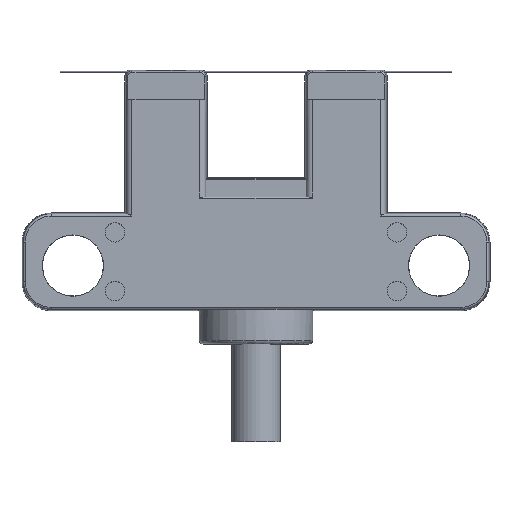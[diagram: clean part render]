
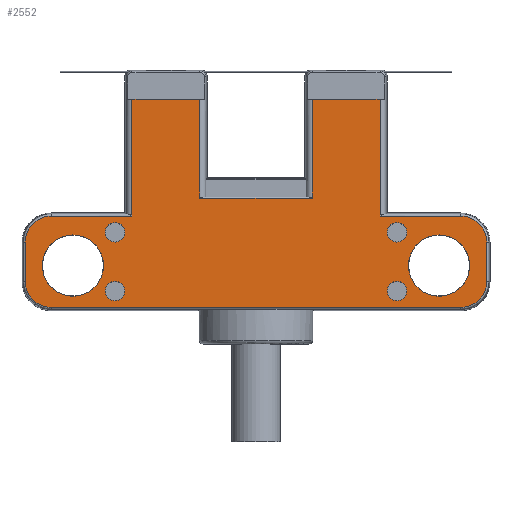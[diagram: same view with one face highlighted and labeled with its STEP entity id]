
A CAD part, top view. The second image highlights one B-rep face of the part: STEP entity #2552.
In plain terms, the highlighted planar face has unit normal (0, 0, 1).
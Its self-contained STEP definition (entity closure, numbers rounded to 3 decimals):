
#14=CARTESIAN_POINT('',(10.45,3.2,3.));
#15=DIRECTION('',(0.,0.,-1.));
#16=DIRECTION('',(0.,1.,0.));
#17=AXIS2_PLACEMENT_3D('',#14,#15,#16);
#19=CARTESIAN_POINT('',(10.45,1.2,3.));
#20=DIRECTION('',(0.,0.,-1.));
#21=DIRECTION('',(1.,0.,0.));
#22=AXIS2_PLACEMENT_3D('',#19,#20,#21);
#24=CARTESIAN_POINT('',(-10.45,1.2,3.));
#25=DIRECTION('',(0.,0.,-1.));
#26=DIRECTION('',(0.,-1.,0.));
#27=AXIS2_PLACEMENT_3D('',#24,#25,#26);
#29=CARTESIAN_POINT('',(-10.45,3.2,3.));
#30=DIRECTION('',(0.,0.,-1.));
#31=DIRECTION('',(-1.,0.,0.));
#32=AXIS2_PLACEMENT_3D('',#29,#30,#31);
#34=CARTESIAN_POINT('',(-9.35,2.,3.));
#35=DIRECTION('',(0.,0.,1.));
#36=DIRECTION('',(1.,0.,0.));
#37=AXIS2_PLACEMENT_3D('',#34,#35,#36);
#39=CARTESIAN_POINT('',(-9.35,2.,3.));
#40=DIRECTION('',(0.,0.,1.));
#41=DIRECTION('',(-1.,0.,0.));
#42=AXIS2_PLACEMENT_3D('',#39,#40,#41);
#44=CARTESIAN_POINT('',(-7.2,0.7,3.));
#45=DIRECTION('',(0.,0.,1.));
#46=DIRECTION('',(0.,1.,0.));
#47=AXIS2_PLACEMENT_3D('',#44,#45,#46);
#49=CARTESIAN_POINT('',(-7.2,0.7,3.));
#50=DIRECTION('',(0.,0.,1.));
#51=DIRECTION('',(0.,-1.,0.));
#52=AXIS2_PLACEMENT_3D('',#49,#50,#51);
#54=CARTESIAN_POINT('',(-7.2,3.7,3.));
#55=DIRECTION('',(0.,0.,1.));
#56=DIRECTION('',(0.,1.,0.));
#57=AXIS2_PLACEMENT_3D('',#54,#55,#56);
#59=CARTESIAN_POINT('',(-7.2,3.7,3.));
#60=DIRECTION('',(0.,0.,1.));
#61=DIRECTION('',(0.,-1.,0.));
#62=AXIS2_PLACEMENT_3D('',#59,#60,#61);
#64=CARTESIAN_POINT('',(7.2,0.7,3.));
#65=DIRECTION('',(0.,0.,1.));
#66=DIRECTION('',(0.,1.,0.));
#67=AXIS2_PLACEMENT_3D('',#64,#65,#66);
#69=CARTESIAN_POINT('',(7.2,0.7,3.));
#70=DIRECTION('',(0.,0.,1.));
#71=DIRECTION('',(0.,-1.,0.));
#72=AXIS2_PLACEMENT_3D('',#69,#70,#71);
#74=CARTESIAN_POINT('',(7.2,3.7,3.));
#75=DIRECTION('',(0.,0.,1.));
#76=DIRECTION('',(0.,1.,0.));
#77=AXIS2_PLACEMENT_3D('',#74,#75,#76);
#79=CARTESIAN_POINT('',(7.2,3.7,3.));
#80=DIRECTION('',(0.,0.,1.));
#81=DIRECTION('',(0.,-1.,0.));
#82=AXIS2_PLACEMENT_3D('',#79,#80,#81);
#84=CARTESIAN_POINT('',(9.35,2.,3.));
#85=DIRECTION('',(0.,0.,1.));
#86=DIRECTION('',(1.,0.,0.));
#87=AXIS2_PLACEMENT_3D('',#84,#85,#86);
#89=CARTESIAN_POINT('',(9.35,2.,3.));
#90=DIRECTION('',(0.,0.,1.));
#91=DIRECTION('',(-1.,0.,0.));
#92=AXIS2_PLACEMENT_3D('',#89,#90,#91);
#94=DIRECTION('',(-1.,0.,0.));
#95=VECTOR('',#94,4.115);
#96=CARTESIAN_POINT('',(-6.335,4.533,3.));
#97=LINE('',#96,#95);
#133=DIRECTION('',(0.,-1.,0.));
#134=VECTOR('',#133,2.);
#135=CARTESIAN_POINT('',(-11.783,3.2,3.));
#136=LINE('',#135,#134);
#1067=DIRECTION('',(1.,0.,0.));
#1068=VECTOR('',#1067,20.9);
#1069=CARTESIAN_POINT('',(-10.45,-0.133,
3.));
#1070=LINE('',#1069,#1068);
#1102=DIRECTION('',(0.,1.,0.));
#1103=VECTOR('',#1102,2.);
#1104=CARTESIAN_POINT('',(11.783,1.2,3.));
#1105=LINE('',#1104,#1103);
#1142=DIRECTION('',(-1.,0.,0.));
#1143=VECTOR('',#1142,4.115);
#1144=CARTESIAN_POINT('',(10.45,4.533,3.));
#1145=LINE('',#1144,#1143);
#1154=DIRECTION('',(0.,1.,0.));
#1155=VECTOR('',#1154,5.967);
#1156=CARTESIAN_POINT('',(6.335,4.533,3.));
#1157=LINE('',#1156,#1155);
#1175=DIRECTION('',(-1.,0.,0.));
#1176=VECTOR('',#1175,3.471);
#1177=CARTESIAN_POINT('',(6.335,10.5,3.));
#1178=LINE('',#1177,#1176);
#1184=DIRECTION('',(0.,-1.,0.));
#1185=VECTOR('',#1184,5.05);
#1186=CARTESIAN_POINT('',(2.865,10.5,3.));
#1187=LINE('',#1186,#1185);
#1213=DIRECTION('',(-1.,0.,0.));
#1214=VECTOR('',#1213,5.729);
#1215=CARTESIAN_POINT('',(2.865,5.45,3.));
#1216=LINE('',#1215,#1214);
#1236=DIRECTION('',(0.,1.,0.));
#1237=VECTOR('',#1236,5.05);
#1238=CARTESIAN_POINT('',(-2.865,5.45,3.));
#1239=LINE('',#1238,#1237);
#1249=DIRECTION('',(-1.,0.,0.));
#1250=VECTOR('',#1249,3.471);
#1251=CARTESIAN_POINT('',(-2.865,10.5,3.));
#1252=LINE('',#1251,#1250);
#1258=DIRECTION('',(0.,-1.,0.));
#1259=VECTOR('',#1258,5.967);
#1260=CARTESIAN_POINT('',(-6.335,10.5,3.));
#1261=LINE('',#1260,#1259);
#1942=CARTESIAN_POINT('',(-6.335,4.533,3.));
#1943=CARTESIAN_POINT('',(-10.45,4.533,3.));
#1944=VERTEX_POINT('',#1942);
#1945=VERTEX_POINT('',#1943);
#1946=CARTESIAN_POINT('',(-6.335,10.5,3.));
#1947=VERTEX_POINT('',#1946);
#1948=CARTESIAN_POINT('',(-2.865,10.5,3.));
#1949=VERTEX_POINT('',#1948);
#1950=CARTESIAN_POINT('',(-2.865,5.45,3.));
#1951=VERTEX_POINT('',#1950);
#1952=CARTESIAN_POINT('',(2.865,5.45,3.));
#1953=VERTEX_POINT('',#1952);
#1954=CARTESIAN_POINT('',(2.865,10.5,3.));
#1955=VERTEX_POINT('',#1954);
#1956=CARTESIAN_POINT('',(6.335,10.5,3.));
#1957=VERTEX_POINT('',#1956);
#1958=CARTESIAN_POINT('',(6.335,4.533,3.));
#1959=VERTEX_POINT('',#1958);
#1960=CARTESIAN_POINT('',(10.45,4.533,3.));
#1961=VERTEX_POINT('',#1960);
#1962=CARTESIAN_POINT('',(11.783,3.2,3.));
#1963=VERTEX_POINT('',#1962);
#1964=CARTESIAN_POINT('',(11.783,1.2,3.));
#1965=VERTEX_POINT('',#1964);
#1966=CARTESIAN_POINT('',(10.45,-0.133,3.));
#1967=VERTEX_POINT('',#1966);
#1968=CARTESIAN_POINT('',(-10.45,-0.133,
3.));
#1969=VERTEX_POINT('',#1968);
#1970=CARTESIAN_POINT('',(-11.783,1.2,3.));
#1971=VERTEX_POINT('',#1970);
#1972=CARTESIAN_POINT('',(-11.783,3.2,3.));
#1973=VERTEX_POINT('',#1972);
#1974=CARTESIAN_POINT('',(-7.787,2.,3.));
#1975=CARTESIAN_POINT('',(-10.913,2.,3.));
#1976=VERTEX_POINT('',#1974);
#1977=VERTEX_POINT('',#1975);
#1978=CARTESIAN_POINT('',(-7.2,1.2,3.));
#1979=CARTESIAN_POINT('',(-7.2,0.2,3.));
#1980=VERTEX_POINT('',#1978);
#1981=VERTEX_POINT('',#1979);
#1982=CARTESIAN_POINT('',(-7.2,4.2,3.));
#1983=CARTESIAN_POINT('',(-7.2,3.2,3.));
#1984=VERTEX_POINT('',#1982);
#1985=VERTEX_POINT('',#1983);
#1986=CARTESIAN_POINT('',(7.2,1.2,3.));
#1987=CARTESIAN_POINT('',(7.2,0.2,3.));
#1988=VERTEX_POINT('',#1986);
#1989=VERTEX_POINT('',#1987);
#1990=CARTESIAN_POINT('',(7.2,4.2,3.));
#1991=CARTESIAN_POINT('',(7.2,3.2,3.));
#1992=VERTEX_POINT('',#1990);
#1993=VERTEX_POINT('',#1991);
#1994=CARTESIAN_POINT('',(10.913,2.,3.));
#1995=CARTESIAN_POINT('',(7.787,2.,3.));
#1996=VERTEX_POINT('',#1994);
#1997=VERTEX_POINT('',#1995);
#2477=CARTESIAN_POINT('',(-6.7,0.,3.));
#2478=DIRECTION('',(0.,0.,1.));
#2479=DIRECTION('',(1.,0.,0.));
#2480=AXIS2_PLACEMENT_3D('',#2477,#2478,#2479);
#2481=PLANE('',#2480);
#2483=ORIENTED_EDGE('',*,*,#2482,.F.);
#2485=ORIENTED_EDGE('',*,*,#2484,.F.);
#2487=ORIENTED_EDGE('',*,*,#2486,.F.);
#2489=ORIENTED_EDGE('',*,*,#2488,.F.);
#2491=ORIENTED_EDGE('',*,*,#2490,.F.);
#2493=ORIENTED_EDGE('',*,*,#2492,.F.);
#2495=ORIENTED_EDGE('',*,*,#2494,.F.);
#2497=ORIENTED_EDGE('',*,*,#2496,.F.);
#2499=ORIENTED_EDGE('',*,*,#2498,.F.);
#2501=ORIENTED_EDGE('',*,*,#2500,.T.);
#2503=ORIENTED_EDGE('',*,*,#2502,.F.);
#2505=ORIENTED_EDGE('',*,*,#2504,.T.);
#2507=ORIENTED_EDGE('',*,*,#2506,.F.);
#2509=ORIENTED_EDGE('',*,*,#2508,.T.);
#2511=ORIENTED_EDGE('',*,*,#2510,.F.);
#2513=ORIENTED_EDGE('',*,*,#2512,.T.);
#2514=EDGE_LOOP('',(#2483,#2485,#2487,#2489,#2491,#2493,#2495,#2497,#2499,#2501,
#2503,#2505,#2507,#2509,#2511,#2513));
#2515=FACE_OUTER_BOUND('',#2514,.F.);
#2517=ORIENTED_EDGE('',*,*,#2516,.T.);
#2519=ORIENTED_EDGE('',*,*,#2518,.T.);
#2520=EDGE_LOOP('',(#2517,#2519));
#2521=FACE_BOUND('',#2520,.F.);
#2523=ORIENTED_EDGE('',*,*,#2522,.T.);
#2525=ORIENTED_EDGE('',*,*,#2524,.T.);
#2526=EDGE_LOOP('',(#2523,#2525));
#2527=FACE_BOUND('',#2526,.F.);
#2529=ORIENTED_EDGE('',*,*,#2528,.T.);
#2531=ORIENTED_EDGE('',*,*,#2530,.T.);
#2532=EDGE_LOOP('',(#2529,#2531));
#2533=FACE_BOUND('',#2532,.F.);
#2535=ORIENTED_EDGE('',*,*,#2534,.T.);
#2537=ORIENTED_EDGE('',*,*,#2536,.T.);
#2538=EDGE_LOOP('',(#2535,#2537));
#2539=FACE_BOUND('',#2538,.F.);
#2541=ORIENTED_EDGE('',*,*,#2540,.T.);
#2543=ORIENTED_EDGE('',*,*,#2542,.T.);
#2544=EDGE_LOOP('',(#2541,#2543));
#2545=FACE_BOUND('',#2544,.F.);
#2547=ORIENTED_EDGE('',*,*,#2546,.T.);
#2549=ORIENTED_EDGE('',*,*,#2548,.T.);
#2550=EDGE_LOOP('',(#2547,#2549));
#2551=FACE_BOUND('',#2550,.F.);
#18=CIRCLE('',#17,1.333);
#23=CIRCLE('',#22,1.333);
#28=CIRCLE('',#27,1.333);
#33=CIRCLE('',#32,1.333);
#38=CIRCLE('',#37,1.563);
#43=CIRCLE('',#42,1.563);
#48=CIRCLE('',#47,0.5);
#53=CIRCLE('',#52,0.5);
#58=CIRCLE('',#57,0.5);
#63=CIRCLE('',#62,0.5);
#68=CIRCLE('',#67,0.5);
#73=CIRCLE('',#72,0.5);
#78=CIRCLE('',#77,0.5);
#83=CIRCLE('',#82,0.5);
#88=CIRCLE('',#87,1.563);
#93=CIRCLE('',#92,1.563);
#2482=EDGE_CURVE('',#1944,#1945,#97,.T.);
#2484=EDGE_CURVE('',#1947,#1944,#1261,.T.);
#2486=EDGE_CURVE('',#1949,#1947,#1252,.T.);
#2488=EDGE_CURVE('',#1951,#1949,#1239,.T.);
#2490=EDGE_CURVE('',#1953,#1951,#1216,.T.);
#2492=EDGE_CURVE('',#1955,#1953,#1187,.T.);
#2494=EDGE_CURVE('',#1957,#1955,#1178,.T.);
#2496=EDGE_CURVE('',#1959,#1957,#1157,.T.);
#2498=EDGE_CURVE('',#1961,#1959,#1145,.T.);
#2500=EDGE_CURVE('',#1961,#1963,#18,.T.);
#2502=EDGE_CURVE('',#1965,#1963,#1105,.T.);
#2504=EDGE_CURVE('',#1965,#1967,#23,.T.);
#2506=EDGE_CURVE('',#1969,#1967,#1070,.T.);
#2508=EDGE_CURVE('',#1969,#1971,#28,.T.);
#2510=EDGE_CURVE('',#1973,#1971,#136,.T.);
#2512=EDGE_CURVE('',#1973,#1945,#33,.T.);
#2516=EDGE_CURVE('',#1976,#1977,#38,.T.);
#2518=EDGE_CURVE('',#1977,#1976,#43,.T.);
#2522=EDGE_CURVE('',#1980,#1981,#48,.T.);
#2524=EDGE_CURVE('',#1981,#1980,#53,.T.);
#2528=EDGE_CURVE('',#1984,#1985,#58,.T.);
#2530=EDGE_CURVE('',#1985,#1984,#63,.T.);
#2534=EDGE_CURVE('',#1988,#1989,#68,.T.);
#2536=EDGE_CURVE('',#1989,#1988,#73,.T.);
#2540=EDGE_CURVE('',#1992,#1993,#78,.T.);
#2542=EDGE_CURVE('',#1993,#1992,#83,.T.);
#2546=EDGE_CURVE('',#1996,#1997,#88,.T.);
#2548=EDGE_CURVE('',#1997,#1996,#93,.T.);
#2552=ADVANCED_FACE('',(#2515,#2521,#2527,#2533,#2539,#2545,#2551),#2481,.T.);
